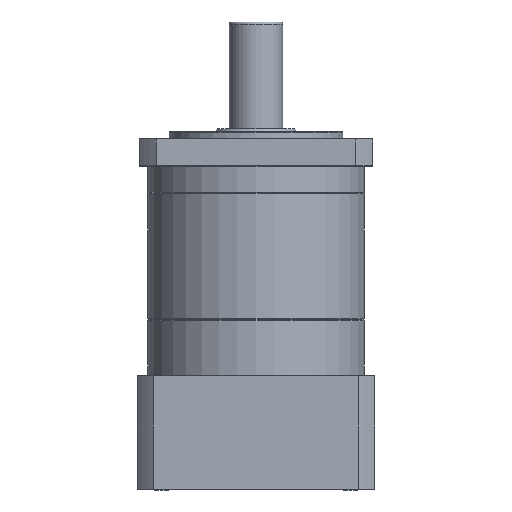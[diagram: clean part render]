
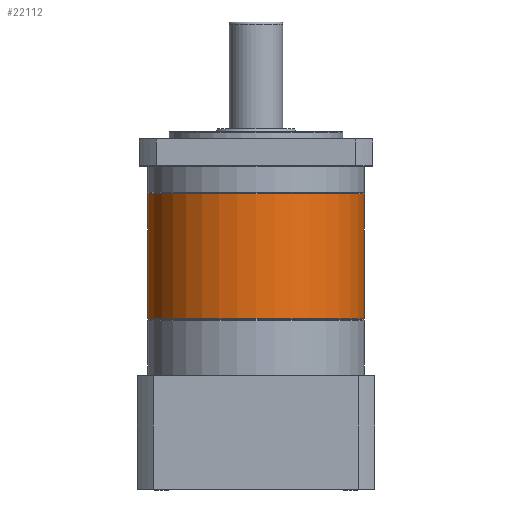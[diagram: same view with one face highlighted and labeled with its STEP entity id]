
A CAD part, front view. The second image highlights one B-rep face of the part: STEP entity #22112.
In plain terms, the highlighted cylindrical face has radius 81 mm (diameter 162 mm), a partial arc.
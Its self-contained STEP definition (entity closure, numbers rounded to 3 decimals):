
#457 = CARTESIAN_POINT ( 'NONE',  ( 189.27, 70.375, 73.515 ) ) ;
#3388 = DIRECTION ( 'NONE',  ( 1., 0., 0. ) ) ;
#10710 = DIRECTION ( 'NONE',  ( 0., 0., -1. ) ) ;
#11496 = CIRCLE ( 'NONE', #30825, 81. ) ;
#11508 = ORIENTED_EDGE ( 'NONE', *, *, #53146, .T. ) ;
#14449 = LINE ( 'NONE', #70251, #92570 ) ;
#16034 = DIRECTION ( 'NONE',  ( 0., 0., 1. ) ) ;
#19945 = CARTESIAN_POINT ( 'NONE',  ( 108.27, 70.375, 73.015 ) ) ;
#22112 = ADVANCED_FACE ( 'NONE', ( #54297 ), #66311, .T. ) ;
#27327 = DIRECTION ( 'NONE',  ( 0., 0., 1. ) ) ;
#28734 = EDGE_CURVE ( 'NONE', #77299, #61621, #11496, .T. ) ;
#30825 = AXIS2_PLACEMENT_3D ( 'NONE', #457, #68918, #47046 ) ;
#39717 = EDGE_LOOP ( 'NONE', ( #51119, #76008, #11508, #85256 ) ) ;
#43146 = CIRCLE ( 'NONE', #84087, 81. ) ;
#47046 = DIRECTION ( 'NONE',  ( 1., 0., 0. ) ) ;
#49850 = CARTESIAN_POINT ( 'NONE',  ( 108.27, 70.375, 73.515 ) ) ;
#51119 = ORIENTED_EDGE ( 'NONE', *, *, #57644, .F. ) ;
#52711 = VERTEX_POINT ( 'NONE', #73675 ) ;
#53146 = EDGE_CURVE ( 'NONE', #61621, #72537, #14449, .T. ) ;
#54297 = FACE_OUTER_BOUND ( 'NONE', #39717, .T. ) ;
#57051 = CARTESIAN_POINT ( 'NONE',  ( 189.27, 70.375, 167.015 ) ) ;
#57644 = EDGE_CURVE ( 'NONE', #77299, #52711, #70861, .T. ) ;
#59758 = EDGE_CURVE ( 'NONE', #72537, #52711, #43146, .T. ) ;
#61621 = VERTEX_POINT ( 'NONE', #89253 ) ;
#61699 = CARTESIAN_POINT ( 'NONE',  ( 189.27, 70.375, 73.015 ) ) ;
#66311 = CYLINDRICAL_SURFACE ( 'NONE', #68832, 81. ) ;
#68832 = AXIS2_PLACEMENT_3D ( 'NONE', #61699, #16034, #81197 ) ;
#68918 = DIRECTION ( 'NONE',  ( 0., 0., 1. ) ) ;
#69598 = DIRECTION ( 'NONE',  ( 0., 0., 1. ) ) ;
#70251 = CARTESIAN_POINT ( 'NONE',  ( 270.27, 70.375, 73.015 ) ) ;
#70861 = LINE ( 'NONE', #19945, #72004 ) ;
#72004 = VECTOR ( 'NONE', #27327, 1000. ) ;
#72537 = VERTEX_POINT ( 'NONE', #89738 ) ;
#73675 = CARTESIAN_POINT ( 'NONE',  ( 108.27, 70.375, 167.015 ) ) ;
#76008 = ORIENTED_EDGE ( 'NONE', *, *, #28734, .T. ) ;
#77299 = VERTEX_POINT ( 'NONE', #49850 ) ;
#81197 = DIRECTION ( 'NONE',  ( 1., 0., 0. ) ) ;
#84087 = AXIS2_PLACEMENT_3D ( 'NONE', #57051, #10710, #3388 ) ;
#85256 = ORIENTED_EDGE ( 'NONE', *, *, #59758, .T. ) ;
#89253 = CARTESIAN_POINT ( 'NONE',  ( 270.27, 70.375, 73.515 ) ) ;
#89738 = CARTESIAN_POINT ( 'NONE',  ( 270.27, 70.375, 167.015 ) ) ;
#92570 = VECTOR ( 'NONE', #69598, 1000. ) ;
